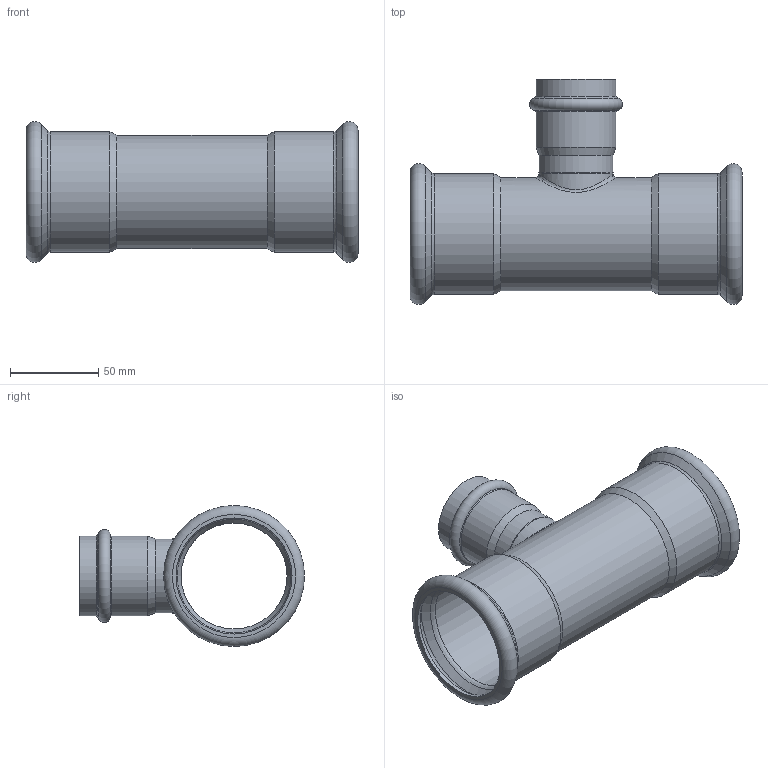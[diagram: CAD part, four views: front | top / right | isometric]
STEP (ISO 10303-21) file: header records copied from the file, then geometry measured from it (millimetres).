
FILE_DESCRIPTION((''),'2;1');
FILE_NAME('G:\Nirosan-Schmiedefeld\Technics\CAD\Bauteile VA\064\69130644264(1).stp','2009-05-08T09:14:01',('herberg'),(''),'Autodesk Inventor 2009','Autodesk Inventor 2009','');
FILE_SCHEMA(('AUTOMOTIVE_DESIGN { 1 0 10303 214 1 1 1 1 }'));
Length unit declared in the file: millimetre
Products named in the file (3): 69130644264(1); LM_69130644264(1); HM_6924342(2)
Assembly tree (2 placements, depth 2):
  69130644264(1)
    LM_69130644264(1)
    HM_6924342(2)
Bounding box: 188 x 127.4 x 79.8 mm (x, y, z)
Volume: 93317.1 mm3; surface area: 98734.6 mm2
Topology: 2 solids, 2 shells, 51 faces, 105 edges, 60 vertices
Faces by surface type: cylinder 16, cone 12, bspline 10, plane 7, torus 6
Full cylindrical faces by diameter (mm): 38 x1, 39 x1, 42 x2, 42.3 x2, 45.3 x2, 60 x1, 64 x1, 64.4 x2, 65.7 x2, 68.4 x2
Entity records: 2912 total; most frequent: CARTESIAN_POINT 1987, DIRECTION 190, ORIENTED_EDGE 108, EDGE_LOOP 102, AXIS2_PLACEMENT_3D 95, EDGE_CURVE 54, VERTEX_POINT 52, FACE_OUTER_BOUND 51
